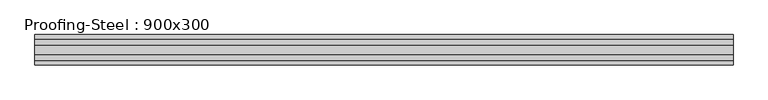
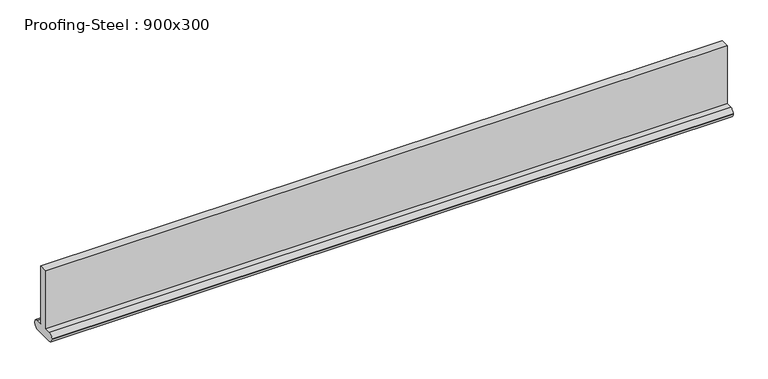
"""IFC4 building model written with IfcOpenShell, lengths in millimetres: beam geometry, Proofing-Steel : 900x300."""

import ifcopenshell
import ifcopenshell.guid

model = None  # the IFC model being written
_history = None  # IfcOwnerHistory: only IFC2X3 demands one
_inside = {}  # id of a spatial element -> (the spatial element, [elements in it])
_under = {}  # id of a project, library or spatial element -> (it, [spatial elements below it])
_declared = {}  # id of a project -> (the project, [libraries it declares])
_typed = {}  # id of a type object -> (the type object, [elements of that type])
_made_of = {}  # id of a material, layer set ... -> (it, [elements and type objects made of it])


def new_model(schema):
    """Start an empty IFC model of exactly this schema.

    Asked for "IFC4X3", IfcOpenShell would pick the latest addendum, in which some entities
    have other attributes; the version numbers below select the first issue.
    IFC2X3 requires an IfcOwnerHistory on every rooted entity: one is made here for all.
    """
    global model, _history
    if schema == "IFC4X3":
        model = ifcopenshell.file(schema_version=(4, 3, 0, 0))
    else:
        model = ifcopenshell.file(schema=schema)
    _inside.clear()
    _under.clear()
    _declared.clear()
    _typed.clear()
    _made_of.clear()
    _history = None
    if model.schema == "IFC2X3":
        org = make("IfcOrganization", Name="unknown")
        user = make(
            "IfcPersonAndOrganization",
            ThePerson=make("IfcPerson", FamilyName="unknown"),
            TheOrganization=org,
        )
        app = make(
            "IfcApplication",
            ApplicationDeveloper=org,
            Version="unknown",
            ApplicationFullName="unknown",
            ApplicationIdentifier="unknown",
        )
        _history = make(
            "IfcOwnerHistory",
            OwningUser=user,
            OwningApplication=app,
            ChangeAction="ADDED",
            CreationDate=0,
        )
    return model


def make(cls, **values):
    """One entity of the class cls with the attributes given. An attribute that is None is left unset."""
    return model.create_entity(
        cls, **{name: value for name, value in values.items() if value is not None}
    )


def rooted(cls, **values):
    """An entity with a GlobalId (a new one), such as an element, a storey or a relation."""
    return make(cls, GlobalId=ifcopenshell.guid.new(), OwnerHistory=_history, **values)


def si_unit(unit_type, name, prefix=None):
    """IfcSIUnit, for example si_unit("LENGTHUNIT", "METRE", prefix="MILLI")."""
    return make("IfcSIUnit", UnitType=unit_type, Prefix=prefix, Name=name)


def assignment(units):
    """IfcUnitAssignment: the units of a project."""
    return None if units is None else make("IfcUnitAssignment", Units=units)


def point(xyz):
    """IfcCartesianPoint."""
    return None if xyz is None else make("IfcCartesianPoint", Coordinates=xyz)


def direction(xyz):
    """IfcDirection."""
    return None if xyz is None else make("IfcDirection", DirectionRatios=xyz)


def frame(location, z_axis=None, x_axis=None):
    """IfcAxis2Placement3D, a coordinate frame: its origin and axes. An axis left out is left unset."""
    return make(
        "IfcAxis2Placement3D",
        Location=point(location),
        Axis=direction(z_axis),
        RefDirection=direction(x_axis),
    )


def frame_2d(location, x_axis=None):
    """IfcAxis2Placement2D, a coordinate frame in the plane: its origin and x axis."""
    return make(
        "IfcAxis2Placement2D", Location=point(location), RefDirection=direction(x_axis)
    )


def origin():
    """The frame at (0, 0, 0) with its axes left unset."""
    return frame((0.0, 0.0, 0.0))


def place(relative_to, where):
    """IfcLocalPlacement: puts the frame where relative to a parent placement (None: the world)."""
    return make(
        "IfcLocalPlacement", PlacementRelTo=relative_to, RelativePlacement=where
    )


def context(
    kind, dimensions, precision=None, world=None, true_north=None, identifier=None
):
    """IfcGeometricRepresentationContext, for example the 3D "Model" context."""
    return make(
        "IfcGeometricRepresentationContext",
        ContextIdentifier=identifier,
        ContextType=kind,
        CoordinateSpaceDimension=dimensions,
        Precision=precision,
        WorldCoordinateSystem=world,
        TrueNorth=true_north,
    )


def project(units=None, contexts=None):
    """IfcProject with its units and contexts."""
    return rooted(
        "IfcProject",
        Name="project",
        RepresentationContexts=contexts,
        UnitsInContext=assignment(units),
    )


def spatial(cls, under=None, at=None, **own):
    """A site, building, storey or space (cls), placed at a placement, below another one or the project."""
    s = rooted(cls, ObjectPlacement=at, **own)
    if under is not None:
        _under.setdefault(under.id(), (under, []))[1].append(s)
    return s


def polyline(points):
    """IfcPolyline through the points."""
    return make("IfcPolyline", Points=[point(p) for p in points])


def circle_curve(where, radius):
    """IfcCircle in the frame where."""
    return make("IfcCircle", Position=where, Radius=radius)


def trimmed(basis, trim1, trim2, sense, master):
    """IfcTrimmedCurve: the piece of a basis curve between two trims."""
    return make(
        "IfcTrimmedCurve",
        BasisCurve=basis,
        Trim1=trim1,
        Trim2=trim2,
        SenseAgreement=sense,
        MasterRepresentation=master,
    )


def segment(curve, same_sense, transition):
    """IfcCompositeCurveSegment."""
    return make(
        "IfcCompositeCurveSegment",
        Transition=transition,
        SameSense=same_sense,
        ParentCurve=curve,
    )


def composite_curve(segments, self_intersect=None):
    """IfcCompositeCurve: segments joined end to end."""
    return make("IfcCompositeCurve", Segments=segments, SelfIntersect=self_intersect)


def outline(outer, holes=None, kind="AREA"):
    """IfcArbitraryClosedProfileDef: a profile drawn as a closed curve; with holes, ...WithVoids."""
    if holes is None:
        return make("IfcArbitraryClosedProfileDef", ProfileType=kind, OuterCurve=outer)
    return make(
        "IfcArbitraryProfileDefWithVoids",
        ProfileType=kind,
        OuterCurve=outer,
        InnerCurves=holes,
    )


def extrude(swept, where, along, depth):
    """IfcExtrudedAreaSolid: the profile swept, set in the frame where, extruded along a direction by depth."""
    return make(
        "IfcExtrudedAreaSolid",
        SweptArea=swept,
        Position=where,
        ExtrudedDirection=direction(along),
        Depth=depth,
    )


def shape(context_of_items, identifier, shape_type, items):
    """IfcShapeRepresentation: the items that make up one representation, for example the "Body"."""
    return make(
        "IfcShapeRepresentation",
        ContextOfItems=context_of_items,
        RepresentationIdentifier=identifier,
        RepresentationType=shape_type,
        Items=items,
    )


def source(mapping_origin, context_of_items, identifier, shape_type, items):
    """IfcRepresentationMap: a shape defined once, which mapped items show again and again."""
    return make(
        "IfcRepresentationMap",
        MappingOrigin=mapping_origin,
        MappedRepresentation=shape(context_of_items, identifier, shape_type, items),
    )


def transform(
    local_origin,
    x_axis=None,
    y_axis=None,
    z_axis=None,
    scale=None,
    scale2=None,
    scale3=None,
    uniform=True,
):
    """IfcCartesianTransformationOperator3D, or its non-uniform kind. x_axis, y_axis, z_axis: its Axis1, 2, 3."""
    if uniform:
        return make(
            "IfcCartesianTransformationOperator3D",
            Axis1=direction(x_axis),
            Axis2=direction(y_axis),
            LocalOrigin=point(local_origin),
            Scale=scale,
            Axis3=direction(z_axis),
        )
    return make(
        "IfcCartesianTransformationOperator3DnonUniform",
        Axis1=direction(x_axis),
        Axis2=direction(y_axis),
        LocalOrigin=point(local_origin),
        Scale=scale,
        Axis3=direction(z_axis),
        Scale2=scale2,
        Scale3=scale3,
    )


def mapped(mapping_source, mapping_target):
    """IfcMappedItem: shows the shape of a source again, moved by a transform."""
    return make(
        "IfcMappedItem", MappingSource=mapping_source, MappingTarget=mapping_target
    )


def made_of(thing, what):
    """Note that an element or type object is made of a material, layer set ...; save() writes the relation."""
    if what is not None:
        _made_of.setdefault(what.id(), (what, []))[1].append(thing)
    return thing


def element(
    cls,
    number,
    at=None,
    inside=None,
    cuts=None,
    type_object=None,
    material=None,
    context=None,
    identifier="Body",
    shape_type=None,
    held_by="IfcProductDefinitionShape",
    body=None,
    shapes=None,
    **own,
):
    """One element of the class cls, such as IfcWall. Its Tag is "e" and its number.

    at: its placement. inside: the storey or other place that contains it. cuts: it is an
    opening in that element (IfcRelVoidsElement). A single representation is given by context,
    identifier, shape_type and body (its items); several are given by shapes. held_by: the class
    of the entity that holds the representations. save() writes the other relations.
    """
    e = rooted(cls, Tag="e%d" % number, ObjectPlacement=at, **own)
    if body is not None:
        shapes = [shape(context, identifier, shape_type, body)]
    if shapes is not None:
        e.Representation = make(held_by, Representations=shapes)
    if inside is not None:
        _inside.setdefault(inside.id(), (inside, []))[1].append(e)
    if cuts is not None:
        rooted(
            "IfcRelVoidsElement", RelatingBuildingElement=cuts, RelatedOpeningElement=e
        )
    if type_object is not None:
        _typed.setdefault(type_object.id(), (type_object, []))[1].append(e)
    return made_of(e, material)


def aggregate(whole, parts):
    """IfcRelAggregates: a whole, such as a stair, and the parts it consists of."""
    return rooted("IfcRelAggregates", RelatingObject=whole, RelatedObjects=parts)


def save(model, path):
    """Write the relations noted so far, then the file.

    IfcRelAggregates (storeys below a building ...), IfcRelContainedInSpatialStructure (elements
    in a storey), IfcRelDefinesByType, IfcRelAssociatesMaterial and IfcRelDeclares: one each for
    every whole, place, type object, material and project.
    """
    for whole, parts in _under.values():
        aggregate(whole, parts)
    for where, things in _inside.values():
        rooted(
            "IfcRelContainedInSpatialStructure",
            RelatedElements=things,
            RelatingStructure=where,
        )
    for kind, things in _typed.values():
        rooted("IfcRelDefinesByType", RelatedObjects=things, RelatingType=kind)
    for what, things in _made_of.values():
        rooted("IfcRelAssociatesMaterial", RelatedObjects=things, RelatingMaterial=what)
    for by, libraries in _declared.values():
        rooted("IfcRelDeclares", RelatingContext=by, RelatedDefinitions=libraries)
    model.write(path)


def proofing_steel_900x300_05167fdf(model_context):
    return source(origin(), model_context, "Body", "SweptSolid", [
        extrude(outline(composite_curve([segment(polyline([(-58.0, -372.0), (-58.0, 450.0), (58.0, 450.0), (58.0, -372.0), (140.0, -372.0)]), True, "CONTINUOUS"), segment(trimmed(circle_curve(frame_2d((140.0, -432.0)), 60.0), [point((140.0, -372.0))], [point((200.0, -432.0))], False, "CARTESIAN"), True, "CONTINUOUS"), segment(polyline([(200.0, -432.0), (200.0, -440.0)]), True, "CONTINUOUS"), segment(trimmed(circle_curve(frame_2d((140.0, -440.0)), 60.0), [point((200.0, -440.0))], [point((140.0, -500.0))], False, "CARTESIAN"), True, "CONTINUOUS"), segment(polyline([(140.0, -500.0), (-140.0, -500.0)]), True, "CONTINUOUS"), segment(trimmed(circle_curve(frame_2d((-140.0, -440.0)), 60.0), [point((-140.0, -500.0))], [point((-200.0, -440.0))], False, "CARTESIAN"), True, "CONTINUOUS"), segment(polyline([(-200.0, -440.0), (-200.0, -432.0)]), True, "CONTINUOUS"), segment(trimmed(circle_curve(frame_2d((-140.0, -432.0)), 60.0), [point((-200.0, -432.0))], [point((-140.0, -372.0))], False, "CARTESIAN"), True, "CONTINUOUS"), segment(polyline([(-140.0, -372.0), (-58.0, -372.0)]), True, "CONTINUOUS")], self_intersect=False)), frame((-4590.9999371, 0.0, 0.0), z_axis=(1.0, 0.0, 0.0), x_axis=(0.0, 1.0, 0.0)), (0.0, 0.0, 1.0), 9181.9998742),
    ])


if __name__ == "__main__":
    model = new_model("IFC4")
    model_context = context("Model", 3, world=origin())
    ifc_project = project(units=[si_unit("LENGTHUNIT", "METRE", prefix="MILLI")], contexts=[model_context])
    site = spatial("IfcSite", under=ifc_project)
    building = spatial("IfcBuilding", under=site)
    placement = place(None, origin())
    proofing_steel_900x300_shape = proofing_steel_900x300_05167fdf(model_context)
    element("IfcBeam", 1, ObjectType="Proofing-Steel : 900x300", at=placement, inside=building, context=model_context, shape_type="MappedRepresentation", body=[
        mapped(proofing_steel_900x300_shape, transform((0.0, 0.0, 0.0), x_axis=(1.0, 0.0, 0.0), y_axis=(0.0, 1.0, 0.0), z_axis=(0.0, 0.0, 1.0))),
    ])
    save(model, "model.ifc")
